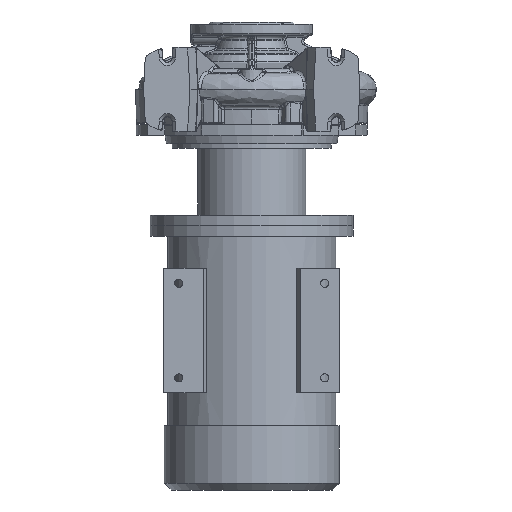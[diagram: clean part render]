
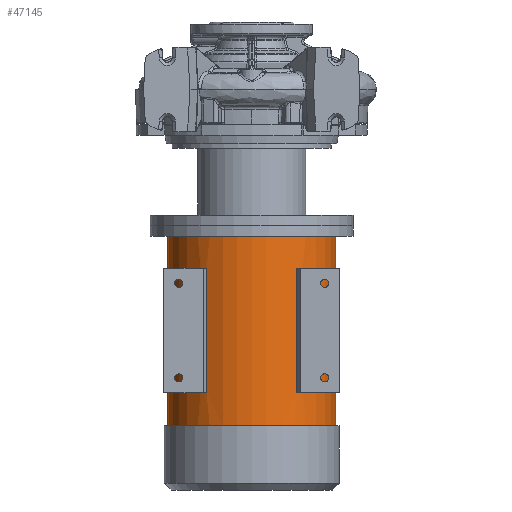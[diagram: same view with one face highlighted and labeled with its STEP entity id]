
A CAD part, front view. The second image highlights one B-rep face of the part: STEP entity #47145.
In plain terms, the highlighted cylindrical face has radius 124.5 mm (diameter 249 mm), a partial arc.
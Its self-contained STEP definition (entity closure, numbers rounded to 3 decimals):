
#78 = ORIENTED_EDGE ( 'NONE', *, *, #68399, .F. ) ;
#1878 = DIRECTION ( 'NONE',  ( 1., 0., 0. ) ) ;
#2741 = ORIENTED_EDGE ( 'NONE', *, *, #29446, .T. ) ;
#3739 = DIRECTION ( 'NONE',  ( -1., 0., 0. ) ) ;
#3987 = VERTEX_POINT ( 'NONE', #71125 ) ;
#5161 = ORIENTED_EDGE ( 'NONE', *, *, #11990, .T. ) ;
#5342 = DIRECTION ( 'NONE',  ( 1., 0., 0. ) ) ;
#5715 = AXIS2_PLACEMENT_3D ( 'NONE', #70235, #24768, #53309 ) ;
#5718 = EDGE_LOOP ( 'NONE', ( #43413, #15136, #57111, #12359 ) ) ;
#6396 = EDGE_CURVE ( 'NONE', #37010, #58002, #72762, .T. ) ;
#8950 = CARTESIAN_POINT ( 'NONE',  ( 66.829, -105.044, -593. ) ) ;
#9833 = VERTEX_POINT ( 'NONE', #58934 ) ;
#10359 = CARTESIAN_POINT ( 'NONE',  ( -66.829, -105.044, -593. ) ) ;
#11632 = CARTESIAN_POINT ( 'NONE',  ( 124.5, 0., -217. ) ) ;
#11990 = EDGE_CURVE ( 'NONE', #37370, #40149, #67285, .T. ) ;
#12359 = ORIENTED_EDGE ( 'NONE', *, *, #68853, .F. ) ;
#13100 = CARTESIAN_POINT ( 'NONE',  ( -66.829, -105.044, -449. ) ) ;
#13150 = CARTESIAN_POINT ( 'NONE',  ( 124.5, 0., -593. ) ) ;
#13577 = ORIENTED_EDGE ( 'NONE', *, *, #53333, .F. ) ;
#14500 = ORIENTED_EDGE ( 'NONE', *, *, #44407, .T. ) ;
#15136 = ORIENTED_EDGE ( 'NONE', *, *, #6396, .T. ) ;
#15632 = DIRECTION ( 'NONE',  ( 0., 0., -1. ) ) ;
#17051 = CARTESIAN_POINT ( 'NONE',  ( -124.5, 0., -498. ) ) ;
#17118 = VERTEX_POINT ( 'NONE', #11632 ) ;
#17394 = CARTESIAN_POINT ( 'NONE',  ( 124.5, 0., -498. ) ) ;
#18450 = FACE_BOUND ( 'NONE', #36683, .T. ) ;
#19359 = VERTEX_POINT ( 'NONE', #17394 ) ;
#21307 = EDGE_LOOP ( 'NONE', ( #78, #43003, #5161, #13577 ) ) ;
#22435 = VERTEX_POINT ( 'NONE', #34314 ) ;
#22883 = CIRCLE ( 'NONE', #45328, 124.5 ) ;
#23170 = EDGE_CURVE ( 'NONE', #37010, #9833, #28813, .T. ) ;
#24163 = CARTESIAN_POINT ( 'NONE',  ( -124.5, 0., -593. ) ) ;
#24679 = DIRECTION ( 'NONE',  ( 0., 0., -1. ) ) ;
#24768 = DIRECTION ( 'NONE',  ( 0., 0., 1. ) ) ;
#24947 = CARTESIAN_POINT ( 'NONE',  ( 0., 0., -265. ) ) ;
#26566 = CIRCLE ( 'NONE', #5715, 124.5 ) ;
#26878 = DIRECTION ( 'NONE',  ( -1., 0., 0. ) ) ;
#27157 = DIRECTION ( 'NONE',  ( 0., 0., -1. ) ) ;
#27347 = VECTOR ( 'NONE', #73083, 1000. ) ;
#27441 = DIRECTION ( 'NONE',  ( 0., 0., 1. ) ) ;
#28424 = AXIS2_PLACEMENT_3D ( 'NONE', #24947, #58485, #1878 ) ;
#28813 = LINE ( 'NONE', #10359, #54588 ) ;
#29088 = CIRCLE ( 'NONE', #57682, 124.5 ) ;
#29446 = EDGE_CURVE ( 'NONE', #45603, #3987, #47079, .T. ) ;
#30596 = LINE ( 'NONE', #72084, #70568 ) ;
#31530 = DIRECTION ( 'NONE',  ( 0., 0., 1. ) ) ;
#32854 = CARTESIAN_POINT ( 'NONE',  ( 0., 0., -593. ) ) ;
#34314 = CARTESIAN_POINT ( 'NONE',  ( 75.873, -98.709, -265. ) ) ;
#35341 = FACE_OUTER_BOUND ( 'NONE', #21307, .T. ) ;
#35891 = ORIENTED_EDGE ( 'NONE', *, *, #38044, .F. ) ;
#36556 = EDGE_CURVE ( 'NONE', #61562, #58002, #67346, .T. ) ;
#36683 = EDGE_LOOP ( 'NONE', ( #35891, #2741, #14500, #63888 ) ) ;
#36881 = CARTESIAN_POINT ( 'NONE',  ( 75.873, -98.709, -449. ) ) ;
#37010 = VERTEX_POINT ( 'NONE', #13100 ) ;
#37370 = VERTEX_POINT ( 'NONE', #53180 ) ;
#38044 = EDGE_CURVE ( 'NONE', #45603, #50853, #22883, .T. ) ;
#38446 = LINE ( 'NONE', #13150, #43776 ) ;
#38560 = DIRECTION ( 'NONE',  ( 0., 0., -1. ) ) ;
#40149 = VERTEX_POINT ( 'NONE', #17051 ) ;
#43003 = ORIENTED_EDGE ( 'NONE', *, *, #47971, .T. ) ;
#43134 = CIRCLE ( 'NONE', #68789, 124.5 ) ;
#43413 = ORIENTED_EDGE ( 'NONE', *, *, #23170, .F. ) ;
#43776 = VECTOR ( 'NONE', #69772, 1000. ) ;
#44407 = EDGE_CURVE ( 'NONE', #3987, #22435, #26566, .T. ) ;
#44554 = AXIS2_PLACEMENT_3D ( 'NONE', #59992, #27157, #5342 ) ;
#45328 = AXIS2_PLACEMENT_3D ( 'NONE', #56035, #72688, #72219 ) ;
#45603 = VERTEX_POINT ( 'NONE', #63284 ) ;
#46211 = VECTOR ( 'NONE', #31530, 1000. ) ;
#47079 = LINE ( 'NONE', #8950, #46211 ) ;
#47145 = ADVANCED_FACE ( 'NONE', ( #35341, #18450, #68197 ), #53080, .T. ) ;
#47971 = EDGE_CURVE ( 'NONE', #17118, #37370, #29088, .T. ) ;
#49823 = CARTESIAN_POINT ( 'NONE',  ( 0., 0., -217. ) ) ;
#50853 = VERTEX_POINT ( 'NONE', #36881 ) ;
#53080 = CYLINDRICAL_SURFACE ( 'NONE', #54306, 124.5 ) ;
#53180 = CARTESIAN_POINT ( 'NONE',  ( -124.5, 0., -217. ) ) ;
#53309 = DIRECTION ( 'NONE',  ( -1., 0., 0. ) ) ;
#53333 = EDGE_CURVE ( 'NONE', #19359, #40149, #43134, .T. ) ;
#54306 = AXIS2_PLACEMENT_3D ( 'NONE', #32854, #38560, #26878 ) ;
#54588 = VECTOR ( 'NONE', #27441, 1000. ) ;
#55412 = CARTESIAN_POINT ( 'NONE',  ( -75.873, -98.709, -265. ) ) ;
#56035 = CARTESIAN_POINT ( 'NONE',  ( 0., 0., -449. ) ) ;
#57111 = ORIENTED_EDGE ( 'NONE', *, *, #36556, .F. ) ;
#57682 = AXIS2_PLACEMENT_3D ( 'NONE', #49823, #66278, #60565 ) ;
#58002 = VERTEX_POINT ( 'NONE', #70871 ) ;
#58485 = DIRECTION ( 'NONE',  ( 0., 0., -1. ) ) ;
#58934 = CARTESIAN_POINT ( 'NONE',  ( -66.829, -105.044, -265. ) ) ;
#59992 = CARTESIAN_POINT ( 'NONE',  ( 0., 0., -449. ) ) ;
#60565 = DIRECTION ( 'NONE',  ( -1., 0., 0. ) ) ;
#61065 = CARTESIAN_POINT ( 'NONE',  ( 0., 0., -498. ) ) ;
#61562 = VERTEX_POINT ( 'NONE', #55412 ) ;
#61653 = CARTESIAN_POINT ( 'NONE',  ( -75.873, -98.709, -593. ) ) ;
#61943 = VECTOR ( 'NONE', #24679, 1000. ) ;
#63284 = CARTESIAN_POINT ( 'NONE',  ( 66.829, -105.044, -449. ) ) ;
#63888 = ORIENTED_EDGE ( 'NONE', *, *, #67860, .T. ) ;
#66116 = DIRECTION ( 'NONE',  ( 0., 0., -1. ) ) ;
#66278 = DIRECTION ( 'NONE',  ( 0., 0., -1. ) ) ;
#66867 = CIRCLE ( 'NONE', #28424, 124.5 ) ;
#67285 = LINE ( 'NONE', #24163, #61943 ) ;
#67346 = LINE ( 'NONE', #61653, #27347 ) ;
#67860 = EDGE_CURVE ( 'NONE', #22435, #50853, #30596, .T. ) ;
#68197 = FACE_BOUND ( 'NONE', #5718, .T. ) ;
#68399 = EDGE_CURVE ( 'NONE', #17118, #19359, #38446, .T. ) ;
#68789 = AXIS2_PLACEMENT_3D ( 'NONE', #61065, #15632, #3739 ) ;
#68853 = EDGE_CURVE ( 'NONE', #9833, #61562, #66867, .T. ) ;
#69772 = DIRECTION ( 'NONE',  ( 0., 0., -1. ) ) ;
#70235 = CARTESIAN_POINT ( 'NONE',  ( 0., 0., -265. ) ) ;
#70568 = VECTOR ( 'NONE', #66116, 1000. ) ;
#70871 = CARTESIAN_POINT ( 'NONE',  ( -75.873, -98.709, -449. ) ) ;
#71125 = CARTESIAN_POINT ( 'NONE',  ( 66.829, -105.044, -265. ) ) ;
#72084 = CARTESIAN_POINT ( 'NONE',  ( 75.873, -98.709, -593. ) ) ;
#72219 = DIRECTION ( 'NONE',  ( -1., 0., 0. ) ) ;
#72688 = DIRECTION ( 'NONE',  ( 0., 0., 1. ) ) ;
#72762 = CIRCLE ( 'NONE', #44554, 124.5 ) ;
#73083 = DIRECTION ( 'NONE',  ( 0., 0., -1. ) ) ;
